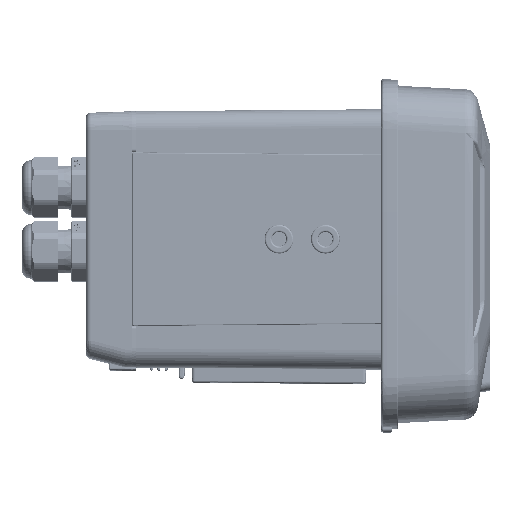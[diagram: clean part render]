
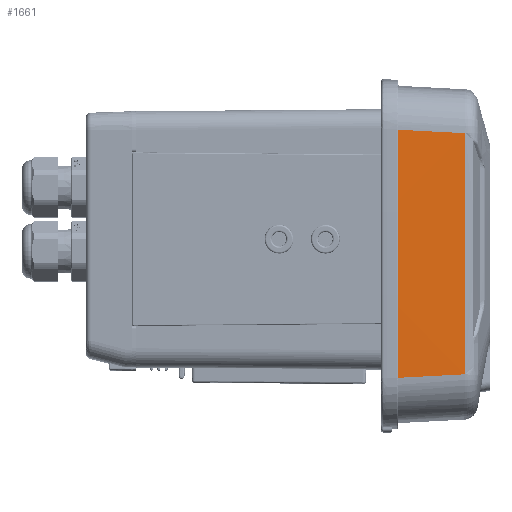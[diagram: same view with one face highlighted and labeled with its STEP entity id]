
A CAD part, top view. The second image highlights one B-rep face of the part: STEP entity #1661.
In plain terms, the highlighted cylindrical face has radius 2503.04 mm (diameter 5006.08 mm), a partial arc.
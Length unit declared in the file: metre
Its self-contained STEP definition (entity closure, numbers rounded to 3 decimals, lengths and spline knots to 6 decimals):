
#1661=ADVANCED_FACE('4072:41922',(#6200),#6201,.T.);
#6200=FACE_OUTER_BOUND('',#18312,.T.);
#6201=CYLINDRICAL_SURFACE('',#18313,2.503038);
#18312=EDGE_LOOP('',(#39023,#39024,#39025,#39026));
#18313=AXIS2_PLACEMENT_3D('',#39027,#39028,#39029);
#39023=ORIENTED_EDGE('',*,*,#68862,.T.);
#39024=ORIENTED_EDGE('',*,*,#68674,.T.);
#39025=ORIENTED_EDGE('',*,*,#68861,.F.);
#39026=ORIENTED_EDGE('',*,*,#68451,.T.);
#39027=CARTESIAN_POINT('',(-2.389142,-0.000002,0.144448));
#39028=DIRECTION('',(0.053,0.,0.999));
#39029=DIRECTION('',(0.,-1.,0.));
#68451=EDGE_CURVE('4072:43704',#79385,#79383,#79386,.T.);
#68674=EDGE_CURVE('4072:43509',#79712,#77838,#79742,.T.);
#68861=EDGE_CURVE('4072:45288',#79385,#77838,#80009,.T.);
#68862=EDGE_CURVE('4072:45312',#79383,#79712,#80010,.T.);
#77838=VERTEX_POINT('',#94756);
#79383=VERTEX_POINT('',#99388);
#79385=VERTEX_POINT('',#99408);
#79386=CIRCLE('',#99409,2.49956);
#79712=VERTEX_POINT('',#100176);
#79742=B_SPLINE_CURVE_WITH_KNOTS('',3,(#100307,#100308,#100309,#100310,#100311,#100312,#100313,#100314,#100315,#100316,#100317,#100318,#100319,#100320,#100321,#100322,#100323,#100324,#100325,#100326,#100327,#100328,#100329,#100330,#100331,#100332),.UNSPECIFIED.,.F.,.F.,(4,2,2,1,2,2,2,2,2,2,2,3,4),(0.0,0.002603,0.003905,0.005206,0.010412,0.020824,0.041648,0.062472,0.072884,0.080693,0.081995,0.083296,0.083302),.UNSPECIFIED.);
#80009=B_SPLINE_CURVE_WITH_KNOTS('',3,(#101058,#101059,#101060,#101061,#101062),.UNSPECIFIED.,.F.,.F.,(4,1,4),(0.0,0.025785,1.0),.UNSPECIFIED.);
#80010=LINE('',#101063,#101064);
#94756=CARTESIAN_POINT('',(0.108918,0.041645,-0.009298));
#99388=CARTESIAN_POINT('',(0.110328,-0.043065,0.01785));
#99408=CARTESIAN_POINT('',(0.110327,0.043065,0.01785));
#99409=AXIS2_PLACEMENT_3D('',#128219,#128220,#128221);
#100176=CARTESIAN_POINT('',(0.108923,-0.041651,-0.009194));
#100307=CARTESIAN_POINT('',(0.108923,-0.041651,-0.009194));
#100308=CARTESIAN_POINT('',(0.108935,-0.040783,-0.009254));
#100309=CARTESIAN_POINT('',(0.108946,-0.039916,-0.009303));
#100310=CARTESIAN_POINT('',(0.108964,-0.038614,-0.009344));
#100311=CARTESIAN_POINT('',(0.10897,-0.03818,-0.009352));
#100312=CARTESIAN_POINT('',(0.108983,-0.037313,-0.009352));
#100313=CARTESIAN_POINT('',(0.109016,-0.035144,-0.009353));
#100314=CARTESIAN_POINT('',(0.109045,-0.032974,-0.009354));
#100315=CARTESIAN_POINT('',(0.10911,-0.027769,-0.009357));
#100316=CARTESIAN_POINT('',(0.109146,-0.024298,-0.009358));
#100317=CARTESIAN_POINT('',(0.109233,-0.013886,-0.009362));
#100318=CARTESIAN_POINT('',(0.109261,-0.006945,-0.009363));
#100319=CARTESIAN_POINT('',(0.109261,0.006938,-0.009365));
#100320=CARTESIAN_POINT('',(0.109233,0.01388,-0.009365));
#100321=CARTESIAN_POINT('',(0.109146,0.024292,-0.009364));
#100322=CARTESIAN_POINT('',(0.10911,0.027763,-0.009363));
#100323=CARTESIAN_POINT('',(0.109034,0.033836,-0.009362));
#100324=CARTESIAN_POINT('',(0.108997,0.036439,-0.009361));
#100325=CARTESIAN_POINT('',(0.10895,0.039476,-0.00936));
#100326=CARTESIAN_POINT('',(0.108943,0.03991,-0.009359));
#100327=CARTESIAN_POINT('',(0.10893,0.040778,-0.009337));
#100328=CARTESIAN_POINT('',(0.108924,0.041211,-0.00932));
#100329=CARTESIAN_POINT('',(0.108918,0.041645,-0.009298));
#100330=CARTESIAN_POINT('',(0.108918,0.041647,-0.009298));
#100331=CARTESIAN_POINT('',(0.108918,0.041649,-0.009297));
#100332=CARTESIAN_POINT('',(0.108918,0.041651,-0.009297));
#101058=CARTESIAN_POINT('',(0.110327,0.043065,0.01785));
#101059=CARTESIAN_POINT('',(0.110315,0.043052,0.017617));
#101060=CARTESIAN_POINT('',(0.109846,0.042579,0.008567));
#101061=CARTESIAN_POINT('',(0.109376,0.042106,-0.000482));
#101062=CARTESIAN_POINT('',(0.108918,0.041645,-0.009298));
#101063=CARTESIAN_POINT('',(0.108923,-0.041651,-0.009194));
#101064=VECTOR('',#128834,1.0);
#128219=CARTESIAN_POINT('',(-2.388862,-0.000004,0.017901));
#128220=DIRECTION('',(0.,0.,-1.));
#128221=DIRECTION('',(1.,0.017,0.));
#128834=DIRECTION('',(-0.052,0.052,-0.997));
